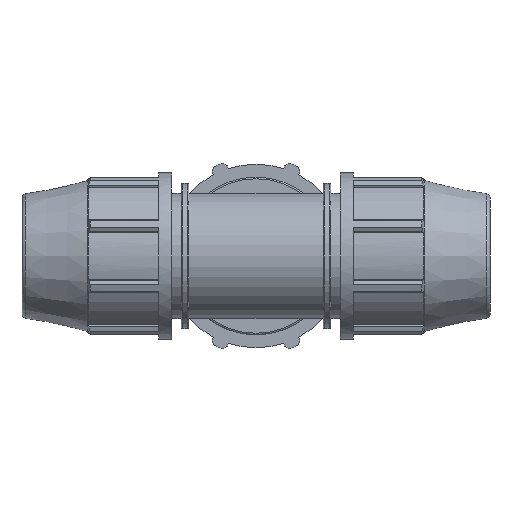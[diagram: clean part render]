
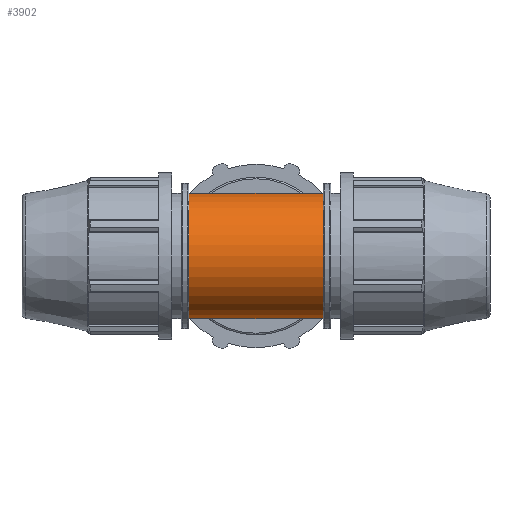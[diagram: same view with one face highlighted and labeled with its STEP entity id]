
A CAD part, front view. The second image highlights one B-rep face of the part: STEP entity #3902.
In plain terms, the highlighted cylindrical face has radius 20.288 mm (diameter 40.576 mm), a full revolution.
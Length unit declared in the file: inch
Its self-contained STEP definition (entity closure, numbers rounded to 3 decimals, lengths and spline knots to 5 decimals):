
#213=FACE_BOUND('',#438,.T.);
#233=ELLIPSE('',#4125,1.1296,0.79875);
#234=ELLIPSE('',#4126,1.1296,0.79875);
#235=ELLIPSE('',#4127,1.1296,0.79875);
#239=FACE_OUTER_BOUND('',#437,.T.);
#437=EDGE_LOOP('',(#2488,#2489,#2490,#2491,#2492,#2493));
#438=EDGE_LOOP('',(#2494,#2495,#2496));
#655=LINE('',#5700,#970);
#970=VECTOR('',#4545,0.79875);
#1285=CIRCLE('',#4121,0.79875);
#1286=CIRCLE('',#4122,0.79875);
#1287=CIRCLE('',#4123,0.79875);
#1288=CIRCLE('',#4124,0.79875);
#1500=VERTEX_POINT('',#5696);
#1501=VERTEX_POINT('',#5697);
#1502=VERTEX_POINT('',#5699);
#1503=VERTEX_POINT('',#5701);
#1504=VERTEX_POINT('',#5705);
#1505=VERTEX_POINT('',#5706);
#1506=VERTEX_POINT('',#5708);
#1904=EDGE_CURVE('',#1500,#1501,#1285,.T.);
#1905=EDGE_CURVE('',#1501,#1502,#655,.T.);
#1906=EDGE_CURVE('',#1503,#1502,#1286,.T.);
#1907=EDGE_CURVE('',#1502,#1503,#1287,.T.);
#1908=EDGE_CURVE('',#1501,#1500,#1288,.T.);
#1909=EDGE_CURVE('',#1504,#1505,#233,.T.);
#1910=EDGE_CURVE('',#1505,#1506,#234,.T.);
#1911=EDGE_CURVE('',#1506,#1504,#235,.T.);
#2488=ORIENTED_EDGE('',*,*,#1904,.T.);
#2489=ORIENTED_EDGE('',*,*,#1905,.T.);
#2490=ORIENTED_EDGE('',*,*,#1906,.F.);
#2491=ORIENTED_EDGE('',*,*,#1907,.F.);
#2492=ORIENTED_EDGE('',*,*,#1905,.F.);
#2493=ORIENTED_EDGE('',*,*,#1908,.T.);
#2494=ORIENTED_EDGE('',*,*,#1909,.T.);
#2495=ORIENTED_EDGE('',*,*,#1910,.T.);
#2496=ORIENTED_EDGE('',*,*,#1911,.T.);
#3656=CYLINDRICAL_SURFACE('',#4120,0.79875);
#3902=ADVANCED_FACE('',(#239,#213),#3656,.T.);
#4120=AXIS2_PLACEMENT_3D('',#5695,#4541,#4542);
#4121=AXIS2_PLACEMENT_3D('',#5698,#4543,#4544);
#4122=AXIS2_PLACEMENT_3D('',#5702,#4546,#4547);
#4123=AXIS2_PLACEMENT_3D('',#5703,#4548,#4549);
#4124=AXIS2_PLACEMENT_3D('',#5704,#4550,#4551);
#4125=AXIS2_PLACEMENT_3D('',#5707,#4552,#4553);
#4126=AXIS2_PLACEMENT_3D('',#5709,#4554,#4555);
#4127=AXIS2_PLACEMENT_3D('',#5710,#4556,#4557);
#4541=DIRECTION('center_axis',(1.,0.,0.));
#4542=DIRECTION('ref_axis',(0.,1.,0.));
#4543=DIRECTION('center_axis',(1.,0.,0.));
#4544=DIRECTION('ref_axis',(0.,0.,-1.));
#4545=DIRECTION('',(1.,0.,0.));
#4546=DIRECTION('center_axis',(1.,0.,0.));
#4547=DIRECTION('ref_axis',(0.,0.,-1.));
#4548=DIRECTION('center_axis',(1.,0.,0.));
#4549=DIRECTION('ref_axis',(0.,0.,-1.));
#4550=DIRECTION('center_axis',(1.,0.,0.));
#4551=DIRECTION('ref_axis',(0.,0.,-1.));
#4552=DIRECTION('center_axis',(0.707,-0.707,0.));
#4553=DIRECTION('ref_axis',(-0.707,-0.707,0.));
#4554=DIRECTION('center_axis',(0.707,-0.707,0.));
#4555=DIRECTION('ref_axis',(-0.707,-0.707,0.));
#4556=DIRECTION('center_axis',(-0.707,-0.707,0.));
#4557=DIRECTION('ref_axis',(-0.707,0.707,0.));
#5695=CARTESIAN_POINT('Origin',(-0.73255,0.,0.));
#5696=CARTESIAN_POINT('',(-0.85713,0.79875,0.));
#5697=CARTESIAN_POINT('',(-0.85713,-0.79875,0.));
#5698=CARTESIAN_POINT('Origin',(-0.85713,0.,0.));
#5699=CARTESIAN_POINT('',(0.85713,-0.79875,0.));
#5700=CARTESIAN_POINT('',(-0.73255,-0.79875,0.));
#5701=CARTESIAN_POINT('',(0.85713,0.79875,0.));
#5702=CARTESIAN_POINT('Origin',(0.85713,0.,0.));
#5703=CARTESIAN_POINT('Origin',(0.85713,0.,0.));
#5704=CARTESIAN_POINT('Origin',(-0.85713,0.,0.));
#5705=CARTESIAN_POINT('',(0.,0.,-0.79875));
#5706=CARTESIAN_POINT('',(0.79875,0.79875,0.));
#5707=CARTESIAN_POINT('Origin',(0.,0.,0.));
#5708=CARTESIAN_POINT('',(0.,0.,0.79875));
#5709=CARTESIAN_POINT('Origin',(0.,0.,0.));
#5710=CARTESIAN_POINT('Origin',(0.,0.,0.));
